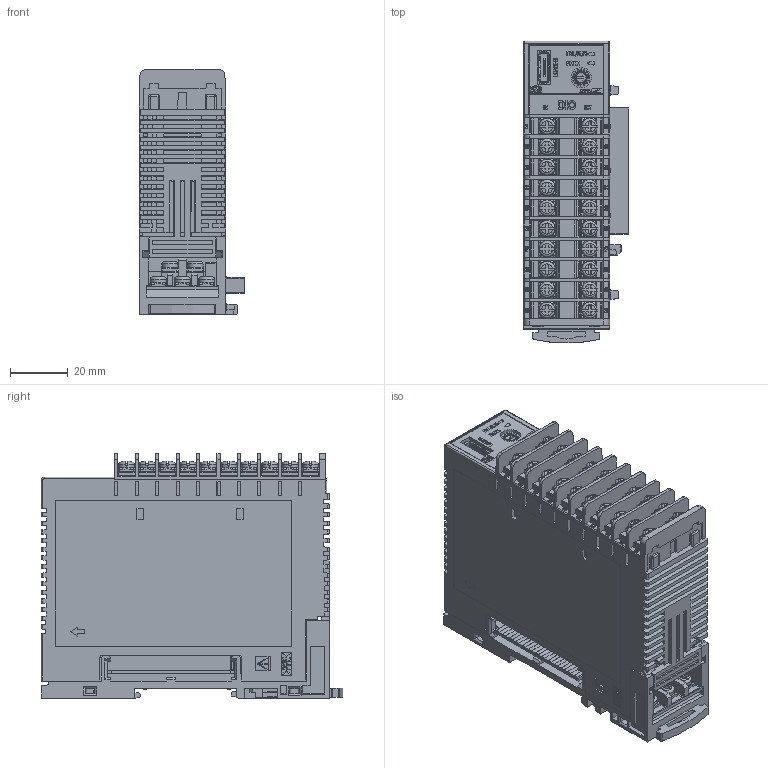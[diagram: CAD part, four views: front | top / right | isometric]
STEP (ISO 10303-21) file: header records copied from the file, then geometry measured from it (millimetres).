
FILE_DESCRIPTION (( 'STEP AP203' ), '1' );
FILE_NAME ('SRZ(Z-DIO-AT)_WEB.STEP', '2020-03-31T10:40:30', ( '' ), ( '' ), 'SwSTEP 2.0', 'SolidWorks 2018', '' );
FILE_SCHEMA (( 'CONFIG_CONTROL_DESIGN' ));
Length unit declared in the file: millimetre
Products named in the file (3): KSRZ-54(1)_WEB_デフォルト; SRZ(Z-DIO-AT)_WEB; SRZ(Z-DIO)（基本設計-端子AT）_WEB_デフォルト
Assembly tree (2 placements, depth 2):
  SRZ(Z-DIO-AT)_WEB
    SRZ(Z-DIO)（基本設計-端子AT）_WEB_デフォルト
    KSRZ-54(1)_WEB_デフォルト
Bounding box: 36.65 x 104.76 x 85 mm (x, y, z)
Volume: 180469 mm3; surface area: 60132.4 mm2
Topology: 3 solids, 42 shells, 6776 faces, 18135 edges, 11675 vertices
Faces by surface type: plane 4169, cylinder 1170, bspline 1165, torus 116, sphere 108, cone 48
Entity records: 245117 total; most frequent: CARTESIAN_POINT 82305, ORIENTED_EDGE 36038, DIRECTION 29466, EDGE_CURVE 18019, LINE 12770, VECTOR 12770, VERTEX_POINT 11667, AXIS2_PLACEMENT_3D 8348
